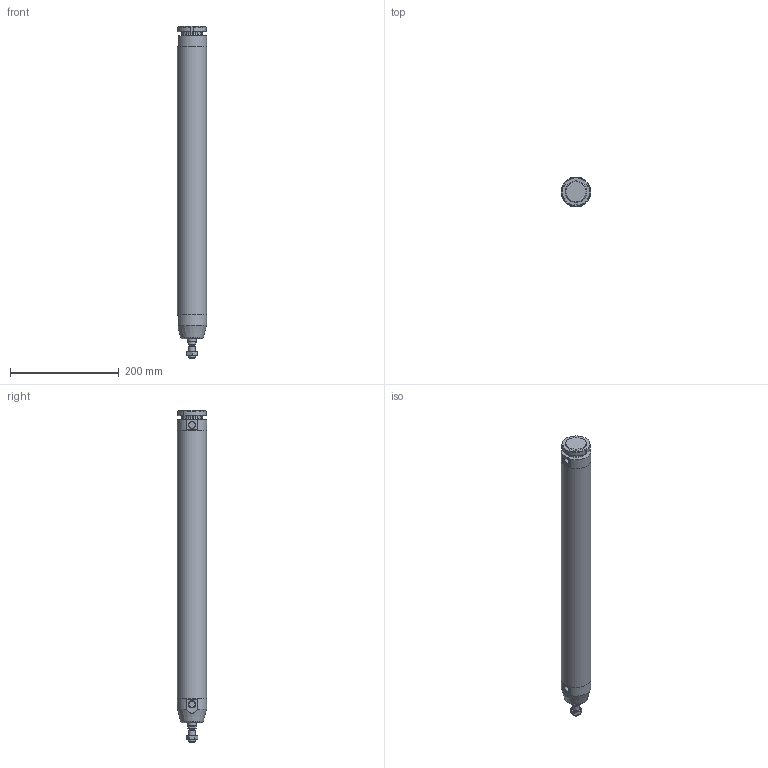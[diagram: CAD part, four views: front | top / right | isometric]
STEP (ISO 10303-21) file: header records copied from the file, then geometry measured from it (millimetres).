
FILE_DESCRIPTION(/* description */ (''),/* implementation_level */ '2;1');
FILE_NAME(/* name */ 'I:\Area Tecnica\Documenti\A-Manieri\_Inventor\12X\12X#B_###_####_#_#\12XAB_050_0450_#_#.stp',/* time_stamp */ '2015-04-27T16:25:55+02:00',/* author */ ('maniean1'),/* organization */ ('Pneumax S.p.A.'),/* preprocessor_version */ 'ST-DEVELOPER v15.2',/* originating_system */ 'Autodesk Inventor 2014',/* authorisation */ '');
FILE_SCHEMA (('AUTOMOTIVE_DESIGN { 1 0 10303 214 3 1 1 }'));
Length unit declared in the file: millimetre
Products named in the file (7): C1250_619-0450; 12X50_613; S12X50_0450; 12X_50_11; 12X50_620; G12X_050_05; 12XAB_050_0450_#_#
Bounding box: 54 x 54 x 610 mm (x, y, z)
Volume: 504342.3 mm3; surface area: 226711.4 mm2
Topology: 6 solids, 6 shells, 80 faces, 175 edges, 112 vertices
Faces by surface type: plane 40, cylinder 20, cone 19, torus 1
Full cylindrical faces by diameter (mm): 10.2 x1, 11.4 x2, 12 x2, 14 x1, 15.6 x1, 16 x1, 38.2 x1, 40 x3, 50 x2, 54 x3
Entity records: 2134 total; most frequent: CARTESIAN_POINT 399, DIRECTION 359, ORIENTED_EDGE 282, AXIS2_PLACEMENT_3D 154, EDGE_CURVE 141, EDGE_LOOP 122, VERTEX_POINT 107, ADVANCED_FACE 80
